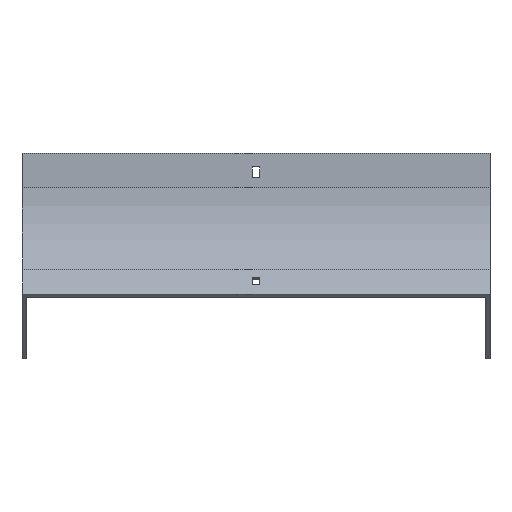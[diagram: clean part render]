
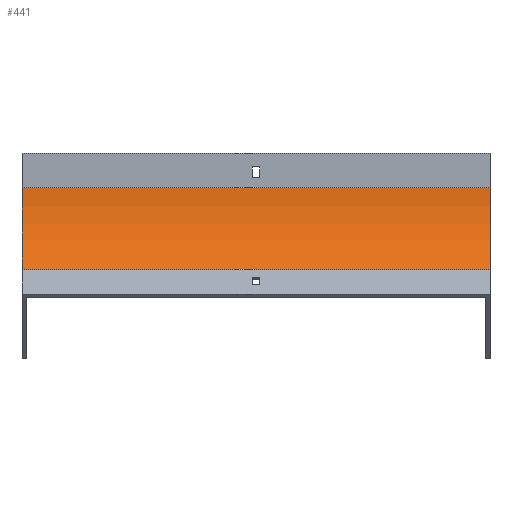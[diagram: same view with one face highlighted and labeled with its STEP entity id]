
A CAD part, front view. The second image highlights one B-rep face of the part: STEP entity #441.
In plain terms, the highlighted cylindrical face has radius 100 mm (diameter 200 mm), a partial arc.
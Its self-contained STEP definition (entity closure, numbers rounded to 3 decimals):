
#29 = CARTESIAN_POINT ( 'NONE',  ( 202., -29.289, -100.711 ) ) ;
#188 = VECTOR ( 'NONE', #534, 1000. ) ;
#204 = LINE ( 'NONE', #1698, #276 ) ;
#276 = VECTOR ( 'NONE', #336, 1000. ) ;
#336 = DIRECTION ( 'NONE',  ( -1., 0., 0. ) ) ;
#409 = AXIS2_PLACEMENT_3D ( 'NONE', #1025, #1337, #892 ) ;
#431 = CARTESIAN_POINT ( 'NONE',  ( -202., 0., -30. ) ) ;
#441 = ADVANCED_FACE ( 'NONE', ( #1621 ), #1506, .F. ) ;
#460 = EDGE_CURVE ( 'NONE', #1295, #1932, #204, .T. ) ;
#501 = ORIENTED_EDGE ( 'NONE', *, *, #677, .F. ) ;
#521 = VERTEX_POINT ( 'NONE', #29 ) ;
#534 = DIRECTION ( 'NONE',  ( -1., 0., 0. ) ) ;
#541 = ORIENTED_EDGE ( 'NONE', *, *, #855, .T. ) ;
#623 = VERTEX_POINT ( 'NONE', #1273 ) ;
#647 = CARTESIAN_POINT ( 'NONE',  ( 202., 0., -30. ) ) ;
#677 = EDGE_CURVE ( 'NONE', #1295, #521, #1839, .T. ) ;
#701 = CIRCLE ( 'NONE', #1070, 100. ) ;
#736 = CARTESIAN_POINT ( 'NONE',  ( 202., -100., -30. ) ) ;
#798 = CARTESIAN_POINT ( 'NONE',  ( -202., -100., -30. ) ) ;
#855 = EDGE_CURVE ( 'NONE', #1932, #623, #701, .T. ) ;
#892 = DIRECTION ( 'NONE',  ( 0., 0., 1. ) ) ;
#1025 = CARTESIAN_POINT ( 'NONE',  ( 202., -100., -30. ) ) ;
#1070 = AXIS2_PLACEMENT_3D ( 'NONE', #798, #1534, #1525 ) ;
#1158 = DIRECTION ( 'NONE',  ( 0., 0., 1. ) ) ;
#1273 = CARTESIAN_POINT ( 'NONE',  ( -202., -29.289, -100.711 ) ) ;
#1295 = VERTEX_POINT ( 'NONE', #647 ) ;
#1337 = DIRECTION ( 'NONE',  ( -1., 0., 0. ) ) ;
#1487 = DIRECTION ( 'NONE',  ( -1., 0., 0. ) ) ;
#1491 = EDGE_LOOP ( 'NONE', ( #541, #1498, #501, #1600 ) ) ;
#1498 = ORIENTED_EDGE ( 'NONE', *, *, #1688, .F. ) ;
#1506 = CYLINDRICAL_SURFACE ( 'NONE', #1678, 100. ) ;
#1525 = DIRECTION ( 'NONE',  ( 0., 0., 1. ) ) ;
#1534 = DIRECTION ( 'NONE',  ( -1., 0., 0. ) ) ;
#1600 = ORIENTED_EDGE ( 'NONE', *, *, #460, .T. ) ;
#1621 = FACE_OUTER_BOUND ( 'NONE', #1491, .T. ) ;
#1678 = AXIS2_PLACEMENT_3D ( 'NONE', #736, #1487, #1158 ) ;
#1688 = EDGE_CURVE ( 'NONE', #521, #623, #1877, .T. ) ;
#1698 = CARTESIAN_POINT ( 'NONE',  ( 202., 0., -30. ) ) ;
#1839 = CIRCLE ( 'NONE', #409, 100. ) ;
#1868 = CARTESIAN_POINT ( 'NONE',  ( 202., -29.289, -100.711 ) ) ;
#1877 = LINE ( 'NONE', #1868, #188 ) ;
#1932 = VERTEX_POINT ( 'NONE', #431 ) ;
